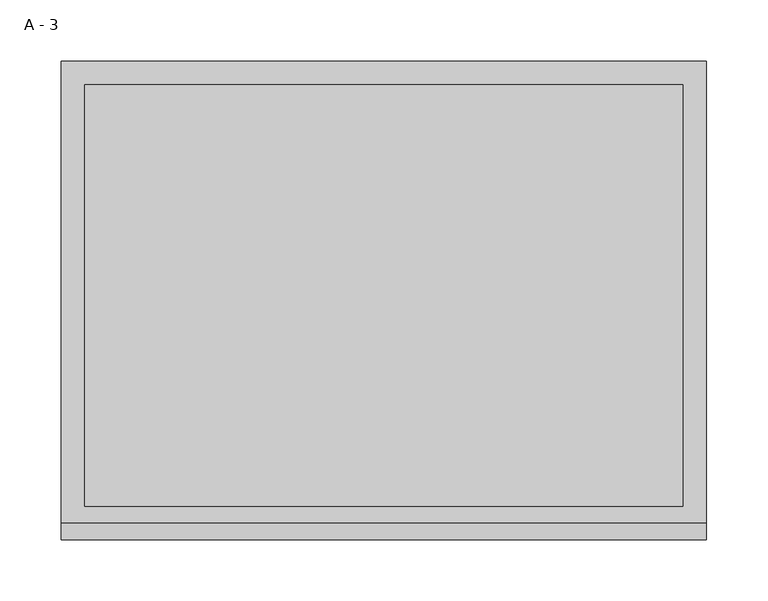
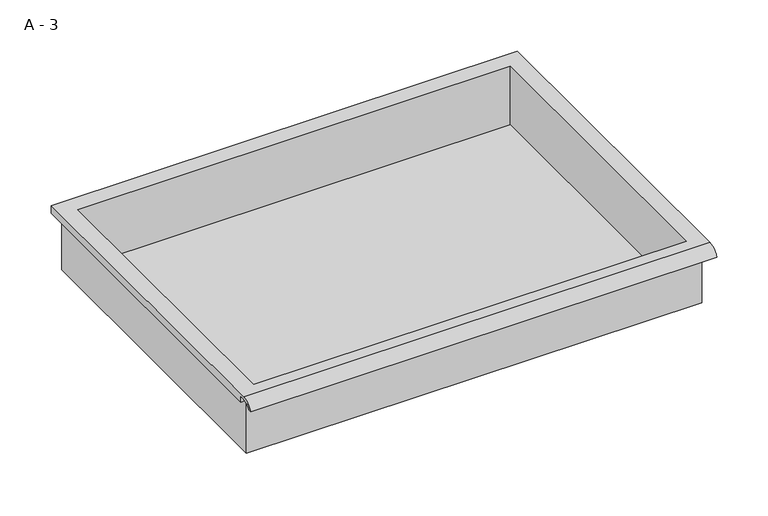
"""IFC4 building model written with IfcOpenShell, lengths in millimetres: furniture geometry, HermanMiller_CoStruc_CO207_Drawer : A - 3."""

from ifc_helpers import new_model, si_unit, frame, origin, place, context, project, spatial, polyline, circle_curve, source, transform, mapped, element, save
from ifc_brep_helpers import plane_surface, cylinder_surface, revolved_surface, advanced_brep


def a_3_23b1ce98(model_context):
    return source(origin(), model_context, "Body", "AdvancedBrep", [
        advanced_brep(
        [(-257.1076517, -176.2125, 1079.4111), (257.2423483, -176.2125, 1079.4111), (257.2423483, -176.2125, 1142.9111), (263.5923483, -176.2125, 1142.9111), (263.5923483, -176.2125, 1149.2182341), (-263.4576517, -176.2125, 1149.2182341), (-263.4576517, -176.2125, 1142.9111), (-257.1076517, -176.2125, 1142.9111), (257.2423483, 185.7375, 1079.4111), (-257.1076517, 185.7375, 1079.4111), (-257.1076517, 185.7375, 1142.9111), (257.2423483, 185.7375, 1142.9111), (263.5923483, -181.6070544, 1152.4361), (263.5923483, 195.2625, 1152.4361), (-263.4576517, 195.2625, 1152.4361), (-263.4576517, -181.6070544, 1152.4361), (244.5423483, -168.275, 1152.4361), (-244.4076517, -168.275, 1152.4361), (-244.4076517, 176.2125, 1152.4361), (244.5423483, 176.2125, 1152.4361), (263.5923483, -195.2625, 1142.9111), (263.5923483, -191.8280601, 1142.9111), (263.5923483, -180.4714815, 1149.2182341), (263.5923483, 195.2625, 1142.9111), (-263.4576517, 195.2625, 1142.9111), (-263.4576517, -180.4714815, 1149.2182341), (-263.4576517, -191.8280601, 1142.9111), (-263.4576517, -195.2625, 1142.9111), (-244.4076517, -168.275, 1082.4372719), (244.5423483, -168.275, 1082.4372719), (244.5423483, 176.2125, 1082.4372719), (-244.4076517, 176.2125, 1082.4372719)],
        [
            (0, 1),
            (1, 2),
            (2, 3),
            (3, 4),
            (4, 5),
            (5, 6),
            (6, 7),
            (7, 0),
            (8, 9),
            (9, 10),
            (10, 11),
            (11, 8),
            (0, 9),
            (8, 1),
            (11, 2),
            (12, 13),
            (13, 14),
            (14, 15),
            (15, 12),
            (16, 17),
            (17, 18),
            (18, 19),
            (19, 16),
            (7, 10),
            (12, 20, circle_curve(frame((263.5923483, -181.6070544, 1137.8850859), z_axis=(1.0, 0.0, 0.0), x_axis=(0.0, 1.0, 0.0)), 14.5510141)),
            (20, 21),
            (21, 22, circle_curve(frame((263.5923483, -181.6070544, 1137.8850859), z_axis=(-1.0, 0.0, 0.0), x_axis=(0.0, 1.0, 0.0)), 11.3898979)),
            (22, 4),
            (3, 23),
            (23, 13),
            (14, 24),
            (24, 6),
            (5, 25),
            (25, 26, circle_curve(frame((-263.4576517, -181.6070544, 1137.8850859), z_axis=(1.0, 0.0, 0.0), x_axis=(0.0, 1.0, 0.0)), 11.3898979)),
            (26, 27),
            (27, 15, circle_curve(frame((-263.4576517, -181.6070544, 1137.8850859), z_axis=(-1.0, 0.0, 0.0), x_axis=(0.0, 1.0, 0.0)), 14.5510141)),
            (27, 20),
            (26, 21),
            (25, 22),
            (24, 23),
            (28, 29),
            (29, 30),
            (30, 31),
            (31, 28),
            (28, 17),
            (16, 29),
            (19, 30),
            (18, 31),
        ],
        [
            plane_surface(frame((257.2423483, -176.2125, 1079.4111), z_axis=(0.0, -1.0, 0.0), x_axis=(1.0, 0.0, 0.0))),
            plane_surface(frame((257.2423483, 185.7375, 1079.4111), z_axis=(0.0, 1.0, 0.0), x_axis=(-1.0, 0.0, 0.0))),
            plane_surface(frame((-257.1076517, -176.2125, 1079.4111), z_axis=(0.0, 0.0, -1.0), x_axis=(0.0, 1.0, 0.0))),
            plane_surface(frame((257.2423483, -176.2125, 1079.4111), z_axis=(1.0, 0.0, 0.0), x_axis=(0.0, 1.0, 0.0))),
            plane_surface(frame((257.2423483, -176.2125, 1152.4361), z_axis=(0.0, 0.0, 1.0), x_axis=(0.0, 1.0, 0.0))),
            plane_surface(frame((-257.1076517, -176.2125, 1152.4361), z_axis=(-1.0, 0.0, 0.0), x_axis=(0.0, 1.0, 0.0))),
            plane_surface(frame((263.5923483, 195.2625, 1152.4361), z_axis=(1.0, 0.0, 0.0), x_axis=(0.0, -1.0, 0.0))),
            plane_surface(frame((-263.4576517, 195.2625, 1152.4361), z_axis=(-1.0, 0.0, 0.0), x_axis=(0.0, 1.0, 0.0))),
            cylinder_surface(frame((-263.4576517, -181.6070544, 1137.8850859), z_axis=(1.0, 0.0, 0.0), x_axis=(0.0, 1.0, 0.0)), 14.5510141),
            plane_surface(frame((263.5923483, -195.2625, 1142.9111), z_axis=(0.0, -7.370057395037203e-12, -1.0), x_axis=(-1.0, 0.0, 0.0))),
            revolved_surface(polyline([(-263.4576517, -170.21715650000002, 1137.8850859), (263.59234829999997, -170.21715650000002, 1137.8850859)]), (-263.4576517, -181.6070544, 1137.8850859), (-1.0, 0.0, 0.0)),
            plane_surface(frame((263.5923483, -180.4714815, 1149.2182341), z_axis=(0.0, -1.8242792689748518e-11, -1.0), x_axis=(-1.0, 0.0, 0.0))),
            plane_surface(frame((263.5923483, -176.2125, 1142.9111), z_axis=(0.0, 0.0, -1.0), x_axis=(-1.0, 0.0, 0.0))),
            plane_surface(frame((263.5923483, 195.2625, 1142.9111), z_axis=(0.0, 1.0, 0.0), x_axis=(-1.0, 0.0, 0.0))),
            plane_surface(frame((244.5423483, -168.275, 1082.4372719), z_axis=(0.0, 0.0, 1.0), x_axis=(-1.0, 0.0, 0.0))),
            plane_surface(frame((-244.4076517, -168.275, 1152.4361), z_axis=(0.0, 1.0, 0.0), x_axis=(0.0, 0.0, -1.0))),
            plane_surface(frame((244.5423483, -168.275, 1152.4361), z_axis=(-1.0, 0.0, 0.0), x_axis=(0.0, 0.0, -1.0))),
            plane_surface(frame((244.5423483, 176.2125, 1152.4361), z_axis=(0.0, -1.0, 0.0), x_axis=(0.0, 0.0, -1.0))),
            plane_surface(frame((-244.4076517, 176.2125, 1152.4361), z_axis=(1.0, 0.0, 0.0), x_axis=(0.0, 0.0, -1.0))),
        ],
        [
            (0, [[1, 2, 3, 4, 5, 6, 7, 8]]),
            (1, [[9, 10, 11, 12]]),
            (2, [[-1, 13, -9, 14]]),
            (3, [[-14, -12, 15, -2]]),
            (4, [[16, 17, 18, 19], [20, 21, 22, 23]]),
            (5, [[-13, -8, 24, -10]]),
            (6, [[-16, 25, 26, 27, 28, -4, 29, 30]]),
            (7, [[31, 32, -6, 33, 34, 35, 36, -18]]),
            (8, [[-25, -19, -36, 37]]),
            (9, [[-26, -37, -35, 38]]),
            (10, [[-27, -38, -34, 39]]),
            (11, [[-28, -39, -33, -5]]),
            (12, [[-29, -3, -15, -11, -24, -7, -32, 40]]),
            (13, [[-30, -40, -31, -17]]),
            (14, [[41, 42, 43, 44]]),
            (15, [[-41, 45, -20, 46]]),
            (16, [[-42, -46, -23, 47]]),
            (17, [[-43, -47, -22, 48]]),
            (18, [[-44, -48, -21, -45]]),
        ],
    ),
    ])


if __name__ == "__main__":
    model = new_model("IFC4")
    model_context = context("Model", 3, world=origin())
    ifc_project = project(units=[si_unit("LENGTHUNIT", "METRE", prefix="MILLI")], contexts=[model_context])
    site = spatial("IfcSite", under=ifc_project)
    building = spatial("IfcBuilding", under=site)
    placement = place(None, origin())
    a_3_shape = a_3_23b1ce98(model_context)
    element("IfcFurniture", 1, ObjectType="HermanMiller_CoStruc_CO207_Drawer : A - 3", at=placement, inside=building, context=model_context, shape_type="MappedRepresentation", body=[
        mapped(a_3_shape, transform((0.0, 0.0, 0.0), x_axis=(1.0, 0.0, 0.0), y_axis=(0.0, 1.0, 0.0), z_axis=(0.0, 0.0, 1.0))),
    ])
    save(model, "model.ifc")
